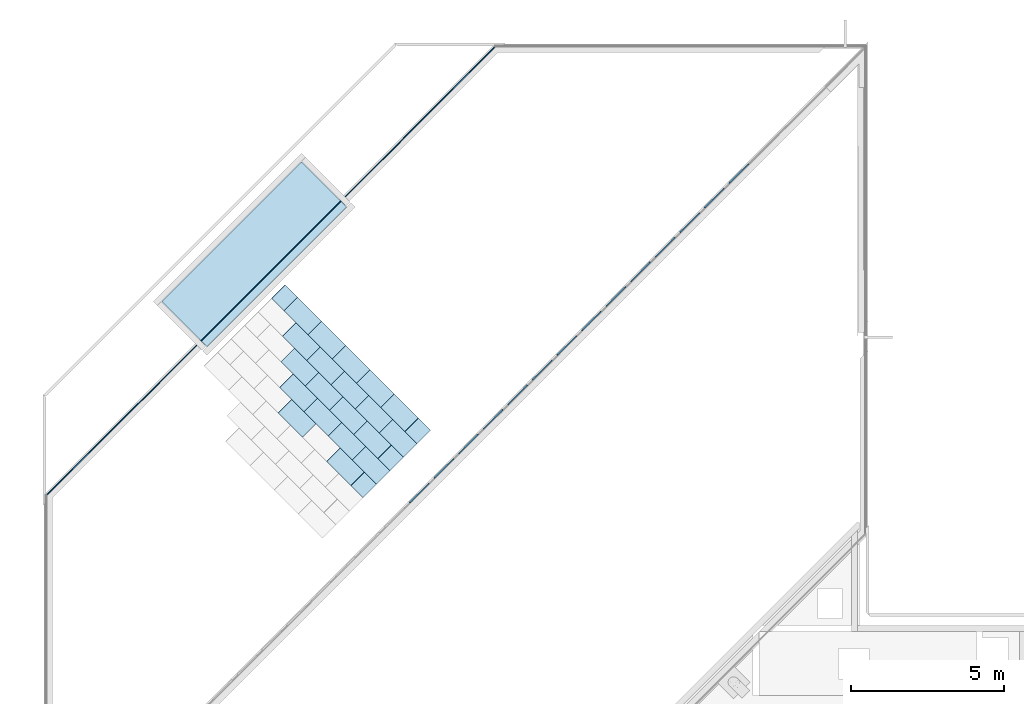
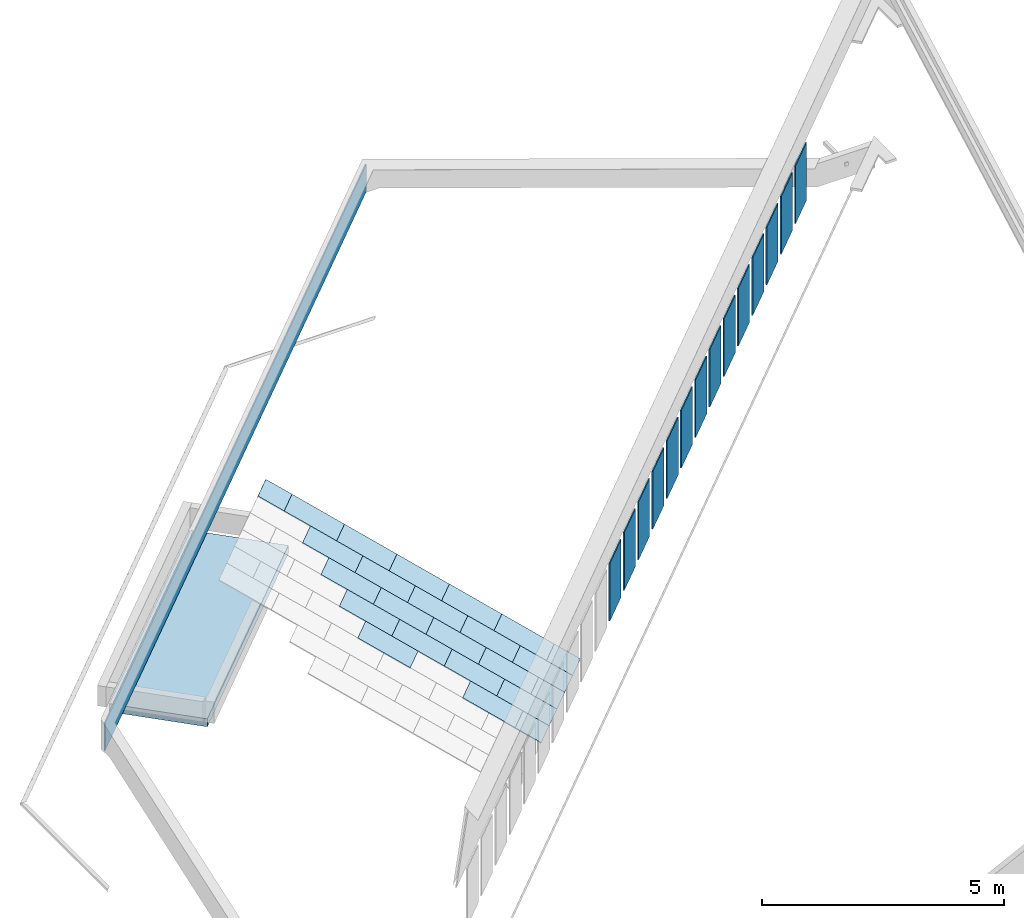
# One storey, part 2 of 8: 25 slabs, 15 plates, 24 elements without a shape of their own.
"""IFC4X3_ADD2 building model written with IfcOpenShell, lengths in millimetres."""

from ifc_helpers import new_model, si_unit, direction, frame, frame_2d, origin_with_axes, place, context, subcontext, project, spatial, polyline, rectangle, outline, extrude, source, transform, mapped, material, type_object, element, aggregate, save


model = new_model("IFC4X3_ADD2")

# Units and contexts
model_context = context("Model", 3, precision=1e-05, world=origin_with_axes(), true_north=direction((0.0, 1.0)))
body_context = subcontext(model_context, "Body", "Model", "MODEL_VIEW")
ifc_project = project(units=[si_unit("LENGTHUNIT", "METRE", prefix="MILLI"), si_unit("AREAUNIT", "SQUARE_METRE"), si_unit("VOLUMEUNIT", "CUBIC_METRE"), si_unit("PLANEANGLEUNIT", "RADIAN"), si_unit("TIMEUNIT", "SECOND"), si_unit("MASSUNIT", "GRAM")], contexts=[model_context])

# Site, building, storey
site_placement = place(None, origin_with_axes())
site = spatial("IfcSite", under=ifc_project, at=site_placement, Name="Site", CompositionType="ELEMENT")
building_placement = place(site_placement, origin_with_axes())
building = spatial("IfcBuilding", under=site, at=building_placement, Name="IFC Building Story")
storey_placement = place(building_placement, frame((0.0, 0.0, 17050.0), z_axis=(0.0, 0.0, 1.0), x_axis=(1.0, 0.0, 0.0)))
storey = spatial("IfcBuildingStorey", under=building, at=storey_placement, Name="050", Elevation=17050.0)

# Slab
ifc_material_1 = material(Name="BB_Beton_Bestaand")
slab_type = type_object("IfcSlabType", Name="BB_Beton_Bestaand 200", PredefinedType="FLOOR", material=ifc_material_1)
slab_1_placement = place(storey_placement, frame((-30719.0066786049, 35293.98755288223, -500.0), z_axis=(0.0, 0.0, 1.0), x_axis=(-0.7071067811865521, -0.707106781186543, 0.0)))
element("IfcSlab", 1, at=slab_1_placement, inside=storey, type_object=slab_type, Name="Floor:BB_XX_Vloer uit beton, 200 mm", ObjectType="Floor:BB_XX_Vloer uit beton, 200 mm", PredefinedType="FLOOR", context=body_context, shape_type="SweptSolid", body=[
    extrude(rectangle(XDim=6470.000000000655, YDim=2099.999999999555, at=frame_2d((0.0, 0.0), x_axis=(-1.0, 0.0))), frame((3235.000000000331, 1049.999999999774, 0.0), z_axis=(0.0, 0.0, 1.0), x_axis=(1.0, 0.0, 0.0)), (0.0, 0.0, 1.0), 200.0),
])

# Plates
ifc_material_2 = material(Name="BB_Glas")
shared_shape_1 = source(origin_with_axes(), body_context, "Body", "SweptSolid", [
    extrude(rectangle(XDim=1459.000000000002, YDim=889.100000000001, at=frame_2d((0.0, 0.0), x_axis=(0.0, 1.0))), frame((0.0, 0.0, -28.0), z_axis=(0.0, 0.0, 1.0), x_axis=(1.0, 0.0, 0.0)), (0.0, 0.0, 1.0), 28.0),
])
for number, where, z_axis, x_axis in (
    (2, (-26845.092895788, 24428.6968924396, 3674.5), (0.7071067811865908, -0.7071067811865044, 0.0), (-0.7071067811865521, -0.707106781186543, 0.0)),
    (3, (-26039.6275613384, 25234.1622268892, 3674.5), (0.7071067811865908, -0.7071067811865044, 0.0), (-0.7071067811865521, -0.707106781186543, 0.0)),
    (4, (-25234.1622268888, 26039.6275613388, 3674.5), (0.7071067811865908, -0.7071067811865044, 0.0), (-0.7071067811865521, -0.707106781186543, 0.0)),
    (5, (-24428.6968924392, 26845.0928957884, 3674.5), (0.7071067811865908, -0.7071067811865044, 0.0), (-0.7071067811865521, -0.707106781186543, 0.0)),
    (6, (-23623.2315579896, 27650.558230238, 3674.5), (0.7071067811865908, -0.7071067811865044, 0.0), (-0.7071067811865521, -0.707106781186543, 0.0)),
    (7, (-22817.76622354, 28456.0235646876, 3674.5), (0.7071067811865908, -0.7071067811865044, 0.0), (-0.7071067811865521, -0.707106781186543, 0.0)),
    (8, (-22012.3008890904, 29261.4888991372, 3674.5), (0.7071067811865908, -0.7071067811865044, 0.0), (-0.7071067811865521, -0.707106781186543, 0.0)),
    (9, (-21206.8355546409, 30066.9542335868, 3674.5), (0.7071067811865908, -0.7071067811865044, 0.0), (-0.7071067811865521, -0.707106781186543, 0.0)),
    (10, (-20401.3702201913, 30872.4195680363, 3674.5), (0.7071067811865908, -0.7071067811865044, 0.0), (-0.7071067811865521, -0.707106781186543, 0.0)),
    (11, (-19595.9048857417, 31677.8849024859, 3674.5), (0.7071067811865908, -0.7071067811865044, 0.0), (-0.7071067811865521, -0.707106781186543, 0.0)),
    (12, (-18790.4395512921, 32483.3502369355, 3674.5), (0.7071067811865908, -0.7071067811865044, 0.0), (-0.7071067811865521, -0.707106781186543, 0.0)),
    (13, (-17984.9742168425, 33288.8155713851, 3674.5), (0.7071067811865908, -0.7071067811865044, 0.0), (-0.7071067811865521, -0.707106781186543, 0.0)),
    (14, (-17179.5088823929, 34094.2809058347, 3674.5), (0.7071067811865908, -0.7071067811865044, 0.0), (-0.7071067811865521, -0.707106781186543, 0.0)),
    (15, (-16374.0435479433, 34899.7462402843, 3674.5), (0.7071067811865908, -0.7071067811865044, 0.0), (-0.7071067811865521, -0.707106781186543, 0.0)),
):
    element("IfcPlate", number, at=place(storey_placement, frame(where, z_axis=z_axis, x_axis=x_axis)), inside=storey, material=ifc_material_2, Name="BB_07.06_Buitenbeglazing, rechthoekig_GMO:07.06.41#01_Dubbele beglazing sheds, 28 mm", ObjectType="BB_07.06_Buitenbeglazing, rechthoekig_GMO:07.06.41#01_Dubbele beglazing sheds, 28 mm", PredefinedType="USERDEFINED", context=body_context, shape_type="MappedRepresentation", body=[
        mapped(shared_shape_1, transform((0.0, 0.0, 0.0))),
    ])
shared_shape_2 = source(origin_with_axes(), body_context, "Body", "SweptSolid", [
    extrude(outline(polyline([(10404.1885216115, -1.000000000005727), (-10404.1885216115, -0.9999999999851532), (-10402.1885216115, 1.000000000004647), (10402.1885216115, 0.9999999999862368), (10404.1885216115, -1.000000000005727)])), frame((10440.9580742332, -13.00000000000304, 0.0), z_axis=(0.0, 0.0, 1.0), x_axis=(1.0, 0.0, 0.0)), (0.0, 0.0, 1.0), 700.000000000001),
    extrude(outline(polyline([(-10412.95807423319, 0.9999999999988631), (10412.9580742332, 0.9999999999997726), (10414.9580742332, -1.000000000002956), (-10414.9580742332, -0.9999999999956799), (-10412.95807423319, 0.9999999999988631)])), frame((10440.9580742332, 13.00000000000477, 0.0), z_axis=(0.0, 0.0, 1.0), x_axis=(1.0, 0.0, 0.0)), (0.0, 0.0, 1.0), 700.000000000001),
    extrude(outline(polyline([(-10436.1296471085, -12.0000000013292), (-10412.1296471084, 11.9999999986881), (10412.1296471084, 12.0000000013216), (10436.1296471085, -11.9999999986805), (-10436.1296471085, -12.0000000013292)])), frame((10440.9580742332, 2.19824158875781e-12, 0.0), z_axis=(0.0, 0.0, 1.0), x_axis=(1.0, 0.0, 0.0)), (0.0, 0.0, 1.0), 700.000000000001),
])
plate_placement = place(storey_placement, frame((-39098.899494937, 24333.1549821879, 3703.0), z_axis=(0.0, 0.0, 1.0), x_axis=(0.7071067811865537, 0.7071067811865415, 0.0)))
element("IfcPlate", 16, at=plate_placement, inside=storey, Name="Basic Wall:BB_07.04.63#01_Aluminium sandwichpanelen, 28 mm", ObjectType="Basic Wall:BB_07.04.63#01_Aluminium sandwichpanelen, 28 mm", PredefinedType="USERDEFINED", context=body_context, shape_type="MappedRepresentation", body=[
    mapped(shared_shape_2, transform((0.0, 0.0, 0.0))),
])

# Roof, slab
roof_1_placement = place(storey_placement, frame((0.0, 0.0, -17050.0), z_axis=(0.0, 0.0, 1.0), x_axis=(1.0, 0.0, 0.0)))
roof_1 = element("IfcRoof", 17, at=roof_1_placement, inside=storey, Name="vezelcementplaat 1250 x 625:vezelcementplaat 1250 x 625", ObjectType="vezelcementplaat 1250 x 625:vezelcementplaat 1250 x 625", PredefinedType="SHED_ROOF")
slab_2_placement = place(roof_1_placement, frame((-28130.3791775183, 27246.49570102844, 17620.25574127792), z_axis=(0.3119702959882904, -0.3119702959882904, 0.8974124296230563), x_axis=(0.6345664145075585, -0.6345664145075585, -0.441192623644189)))
slab_2 = element("IfcSlab", 18, at=slab_2_placement, Name="vezelcementplaat 1250 x 625:vezelcementplaat 1250 x 625:1", ObjectType="vezelcementplaat 1250 x 625:vezelcementplaat 1250 x 625", PredefinedType="ROOF", context=body_context, shape_type="SweptSolid", body=[
    extrude(rectangle(XDim=1250.261265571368, YDim=625.0000000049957, at=frame_2d((0.0, 0.0), x_axis=(-1.0, 0.0))), frame((381.7661132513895, 312.5000000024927, 495.0181237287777), z_axis=(0.0, 0.0, 1.0), x_axis=(1.0, 0.0, 0.0)), (0.0, 0.0, 1.0), 23.84980459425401),
])
aggregate(roof_1, [slab_2])

roof_2_placement = place(storey_placement, frame((0.0, 0.0, -17050.0), z_axis=(0.0, 0.0, 1.0), x_axis=(1.0, 0.0, 0.0)))
roof_2 = element("IfcRoof", 19, at=roof_2_placement, inside=storey, Name="vezelcementplaat 1250 x 1:vezelcementplaat 1250 x 625", ObjectType="vezelcementplaat 1250 x 1:vezelcementplaat 1250 x 625", PredefinedType="SHED_ROOF")
slab_3_placement = place(roof_2_placement, frame((-28923.4214052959, 28039.53792880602, 18171.86178927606), z_axis=(0.3119702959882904, -0.3119702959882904, 0.8974124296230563), x_axis=(0.6345664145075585, -0.6345664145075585, -0.441192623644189)))
slab_3 = element("IfcSlab", 20, at=slab_3_placement, Name="vezelcementplaat 1250 x 1:vezelcementplaat 1250 x 625:1", ObjectType="vezelcementplaat 1250 x 1:vezelcementplaat 1250 x 625", PredefinedType="ROOF", context=body_context, shape_type="SweptSolid", body=[
    extrude(rectangle(XDim=1249.738734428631, YDim=625.0000000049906, at=frame_2d((0.0, 0.0), x_axis=(-1.0, 0.0))), frame((381.606558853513, 312.5000000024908, 494.8112370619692), z_axis=(0.0, 0.0, 1.0), x_axis=(1.0, 0.0, 0.0)), (0.0, 0.0, 1.0), 23.84980459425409),
])
aggregate(roof_2, [slab_3])

roof_3_placement = place(storey_placement, frame((0.0, 0.0, -17050.0), z_axis=(0.0, 0.0, 1.0), x_axis=(1.0, 0.0, 0.0)))
roof_3 = element("IfcRoof", 21, at=roof_3_placement, inside=storey, Name="vezelcementplaat 1250 x 2:vezelcementplaat 1250 x 625", ObjectType="vezelcementplaat 1250 x 2:vezelcementplaat 1250 x 625", PredefinedType="SHED_ROOF")
slab_4_placement = place(roof_3_placement, frame((-29716.6294234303, 28832.74594694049, 18723.23730038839), z_axis=(0.3119702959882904, -0.3119702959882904, 0.8974124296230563), x_axis=(0.6345664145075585, -0.6345664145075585, -0.441192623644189)))
slab_4 = element("IfcSlab", 22, at=slab_4_placement, Name="vezelcementplaat 1250 x 2:vezelcementplaat 1250 x 625:1", ObjectType="vezelcementplaat 1250 x 2:vezelcementplaat 1250 x 625", PredefinedType="ROOF", context=body_context, shape_type="SweptSolid", body=[
    extrude(rectangle(XDim=1250.000000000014, YDim=625.0000000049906, at=frame_2d((0.0, 0.0), x_axis=(-1.0, 0.0))), frame((381.6863360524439, 312.5000000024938, 494.9146803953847), z_axis=(0.0, 0.0, 1.0), x_axis=(1.0, 0.0, 0.0)), (0.0, 0.0, 1.0), 23.84980459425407),
])
aggregate(roof_3, [slab_4])

roof_4_placement = place(storey_placement, frame((0.0, 0.0, -17050.0), z_axis=(0.0, 0.0, 1.0), x_axis=(1.0, 0.0, 0.0)))
roof_4 = element("IfcRoof", 23, at=roof_4_placement, inside=storey, Name="vezelcementplaat 1250 x 3:vezelcementplaat 1250 x 625", ObjectType="vezelcementplaat 1250 x 3:vezelcementplaat 1250 x 625", PredefinedType="SHED_ROOF")
slab_5_placement = place(roof_4_placement, frame((-30509.83744156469, 29625.95396507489, 19274.72807994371), z_axis=(0.3119702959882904, -0.3119702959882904, 0.8974124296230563), x_axis=(0.6345664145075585, -0.6345664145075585, -0.441192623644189)))
slab_5 = element("IfcSlab", 24, at=slab_5_placement, Name="vezelcementplaat 1250 x 3:vezelcementplaat 1250 x 625:1", ObjectType="vezelcementplaat 1250 x 3:vezelcementplaat 1250 x 625", PredefinedType="ROOF", context=body_context, shape_type="SweptSolid", body=[
    extrude(rectangle(XDim=1250.000000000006, YDim=625.0000000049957, at=frame_2d((0.0, 0.0), x_axis=(-1.0, 0.0))), frame((381.6863360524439, 312.5000000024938, 494.9146803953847), z_axis=(0.0, 0.0, 1.0), x_axis=(1.0, 0.0, 0.0)), (0.0, 0.0, 1.0), 23.84980459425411),
])
aggregate(roof_4, [slab_5])

roof_5_placement = place(storey_placement, frame((0.0, 0.0, -17050.0), z_axis=(0.0, 0.0, 1.0), x_axis=(1.0, 0.0, 0.0)))
roof_5 = element("IfcRoof", 25, at=roof_5_placement, inside=storey, Name="vezelcementplaat 1250 x 4:vezelcementplaat 1250 x 625", ObjectType="vezelcementplaat 1250 x 4:vezelcementplaat 1250 x 625", PredefinedType="SHED_ROOF")
slab_6_placement = place(roof_5_placement, frame((-31303.0454596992, 30419.16198320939, 19826.21885949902), z_axis=(0.3119702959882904, -0.3119702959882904, 0.8974124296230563), x_axis=(0.6345664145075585, -0.6345664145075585, -0.441192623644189)))
slab_6 = element("IfcSlab", 26, at=slab_6_placement, Name="vezelcementplaat 1250 x 4:vezelcementplaat 1250 x 625:1", ObjectType="vezelcementplaat 1250 x 4:vezelcementplaat 1250 x 625", PredefinedType="ROOF", context=body_context, shape_type="SweptSolid", body=[
    extrude(rectangle(XDim=1250.000000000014, YDim=625.000000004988, at=frame_2d((0.0, 0.0), x_axis=(-1.0, 0.0))), frame((381.6863360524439, 312.5000000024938, 494.9146803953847), z_axis=(0.0, 0.0, 1.0), x_axis=(1.0, 0.0, 0.0)), (0.0, 0.0, 1.0), 23.84980459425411),
])
aggregate(roof_5, [slab_6])

roof_6_placement = place(storey_placement, frame((0.0, 0.0, -17050.0), z_axis=(0.0, 0.0, 1.0), x_axis=(1.0, 0.0, 0.0)))
roof_6 = element("IfcRoof", 27, at=roof_6_placement, inside=storey, Name="vezelcementplaat 1250 x 5:vezelcementplaat 1250 x 625", ObjectType="vezelcementplaat 1250 x 5:vezelcementplaat 1250 x 625", PredefinedType="SHED_ROOF")
slab_7_placement = place(roof_6_placement, frame((-31257.70773052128, 31257.70773052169, 20377.70963905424), z_axis=(0.3119702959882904, -0.3119702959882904, 0.8974124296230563), x_axis=(-0.7071067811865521, -0.707106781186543, 0.0)))
slab_7 = element("IfcSlab", 28, at=slab_7_placement, Name="vezelcementplaat 1250 x 5:vezelcementplaat 1250 x 625:1", ObjectType="vezelcementplaat 1250 x 5:vezelcementplaat 1250 x 625", PredefinedType="ROOF", context=body_context, shape_type="SweptSolid", body=[
    extrude(rectangle(XDim=625.0000000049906, YDim=625.0000000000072, at=frame_2d((0.0, 0.0), x_axis=(-1.0, 0.0))), frame((312.500000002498, 190.8431680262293, 247.4573401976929), z_axis=(0.0, 0.0, 1.0), x_axis=(1.0, 0.0, 0.0)), (0.0, 0.0, 1.0), 23.84980459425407),
])
aggregate(roof_6, [slab_7])

roof_7_placement = place(storey_placement, frame((0.0, 0.0, -17050.0), z_axis=(0.0, 0.0, 1.0), x_axis=(1.0, 0.0, 0.0)))
roof_7 = element("IfcRoof", 29, at=roof_7_placement, inside=storey, Name="vezelcementplaat 1250 x 6:vezelcementplaat 1250 x 625", ObjectType="vezelcementplaat 1250 x 6:vezelcementplaat 1250 x 625", PredefinedType="SHED_ROOF")
slab_8_placement = place(roof_7_placement, frame((-26895.22942113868, 26895.22942113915, 17344.51035150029), z_axis=(0.3119702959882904, -0.3119702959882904, 0.8974124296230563), x_axis=(-0.7071067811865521, -0.707106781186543, 0.0)))
slab_8 = element("IfcSlab", 30, at=slab_8_placement, Name="vezelcementplaat 1250 x 6:vezelcementplaat 1250 x 625:1", ObjectType="vezelcementplaat 1250 x 6:vezelcementplaat 1250 x 625", PredefinedType="ROOF", context=body_context, shape_type="SweptSolid", body=[
    extrude(rectangle(XDim=625.2612655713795, YDim=625.0000000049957, at=frame_2d((0.0, 0.0), x_axis=(0.0, -1.0))), frame((312.5000000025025, 190.9229452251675, 247.560783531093), z_axis=(0.0, 0.0, 1.0), x_axis=(1.0, 0.0, 0.0)), (0.0, 0.0, 1.0), 23.84980459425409),
])
aggregate(roof_7, [slab_8])

roof_8_placement = place(storey_placement, frame((0.0, 0.0, -17050.0), z_axis=(0.0, 0.0, 1.0), x_axis=(1.0, 0.0, 0.0)))
roof_8 = element("IfcRoof", 31, at=roof_8_placement, inside=storey, Name="vezelcementplaat 1250 x 7:vezelcementplaat 1250 x 625", ObjectType="vezelcementplaat 1250 x 7:vezelcementplaat 1250 x 625", PredefinedType="SHED_ROOF")
slab_9_placement = place(roof_8_placement, frame((-28969.090715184, 27201.32376221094, 17896.11639949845), z_axis=(0.3119702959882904, -0.3119702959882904, 0.8974124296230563), x_axis=(0.6345664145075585, -0.6345664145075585, -0.441192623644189)))
slab_9 = element("IfcSlab", 32, at=slab_9_placement, Name="vezelcementplaat 1250 x 7:vezelcementplaat 1250 x 625:1", ObjectType="vezelcementplaat 1250 x 7:vezelcementplaat 1250 x 625", PredefinedType="ROOF", context=body_context, shape_type="SweptSolid", body=[
    extrude(rectangle(XDim=1250.261265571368, YDim=625.0000000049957, at=frame_2d((0.0, 0.0), x_axis=(-1.0, 0.0))), frame((381.7661132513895, 312.5000000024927, 495.0181237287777), z_axis=(0.0, 0.0, 1.0), x_axis=(1.0, 0.0, 0.0)), (0.0, 0.0, 1.0), 23.84980459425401),
])
aggregate(roof_8, [slab_9])

roof_9_placement = place(storey_placement, frame((0.0, 0.0, -17050.0), z_axis=(0.0, 0.0, 1.0), x_axis=(1.0, 0.0, 0.0)))
roof_9 = element("IfcRoof", 33, at=roof_9_placement, inside=storey, Name="vezelcementplaat 1250 x 8:vezelcementplaat 1250 x 625", ObjectType="vezelcementplaat 1250 x 8:vezelcementplaat 1250 x 625", PredefinedType="SHED_ROOF")
slab_10_placement = place(roof_9_placement, frame((-29762.1329429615, 27994.36598998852, 18447.72244749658), z_axis=(0.3119702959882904, -0.3119702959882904, 0.8974124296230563), x_axis=(0.6345664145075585, -0.6345664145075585, -0.441192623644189)))
slab_10 = element("IfcSlab", 34, at=slab_10_placement, Name="vezelcementplaat 1250 x 8:vezelcementplaat 1250 x 625:1", ObjectType="vezelcementplaat 1250 x 8:vezelcementplaat 1250 x 625", PredefinedType="ROOF", context=body_context, shape_type="SweptSolid", body=[
    extrude(rectangle(XDim=1249.738734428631, YDim=625.0000000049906, at=frame_2d((0.0, 0.0), x_axis=(-1.0, 0.0))), frame((381.606558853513, 312.5000000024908, 494.8112370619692), z_axis=(0.0, 0.0, 1.0), x_axis=(1.0, 0.0, 0.0)), (0.0, 0.0, 1.0), 23.84980459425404),
])
aggregate(roof_9, [slab_10])

roof_10_placement = place(storey_placement, frame((0.0, 0.0, -17050.0), z_axis=(0.0, 0.0, 1.0), x_axis=(1.0, 0.0, 0.0)))
roof_10 = element("IfcRoof", 35, at=roof_10_placement, inside=storey, Name="vezelcementplaat 1250 x 9:vezelcementplaat 1250 x 625", ObjectType="vezelcementplaat 1250 x 9:vezelcementplaat 1250 x 625", PredefinedType="SHED_ROOF")
slab_11_placement = place(roof_10_placement, frame((-30555.340961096, 28787.57400812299, 18999.09795860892), z_axis=(0.3119702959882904, -0.3119702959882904, 0.8974124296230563), x_axis=(0.6345664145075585, -0.6345664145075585, -0.441192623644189)))
slab_11 = element("IfcSlab", 36, at=slab_11_placement, Name="vezelcementplaat 1250 x 9:vezelcementplaat 1250 x 625:1", ObjectType="vezelcementplaat 1250 x 9:vezelcementplaat 1250 x 625", PredefinedType="ROOF", context=body_context, shape_type="SweptSolid", body=[
    extrude(rectangle(XDim=1250.000000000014, YDim=625.0000000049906, at=frame_2d((0.0, 0.0), x_axis=(-1.0, 0.0))), frame((381.6863360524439, 312.5000000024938, 494.9146803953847), z_axis=(0.0, 0.0, 1.0), x_axis=(1.0, 0.0, 0.0)), (0.0, 0.0, 1.0), 23.84980459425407),
])
aggregate(roof_10, [slab_11])

roof_11_placement = place(storey_placement, frame((0.0, 0.0, -17050.0), z_axis=(0.0, 0.0, 1.0), x_axis=(1.0, 0.0, 0.0)))
roof_11 = element("IfcRoof", 37, at=roof_11_placement, inside=storey, Name="vezelcementplaat 1250 x 10:vezelcementplaat 1250 x 625", ObjectType="vezelcementplaat 1250 x 10:vezelcementplaat 1250 x 625", PredefinedType="SHED_ROOF")
slab_12_placement = place(roof_11_placement, frame((-31348.54897923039, 29580.78202625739, 19550.58873816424), z_axis=(0.3119702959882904, -0.3119702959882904, 0.8974124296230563), x_axis=(0.6345664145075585, -0.6345664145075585, -0.441192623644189)))
slab_12 = element("IfcSlab", 38, at=slab_12_placement, Name="vezelcementplaat 1250 x 10:vezelcementplaat 1250 x 625:1", ObjectType="vezelcementplaat 1250 x 10:vezelcementplaat 1250 x 625", PredefinedType="ROOF", context=body_context, shape_type="SweptSolid", body=[
    extrude(rectangle(XDim=1250.000000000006, YDim=625.0000000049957, at=frame_2d((0.0, 0.0), x_axis=(-1.0, 0.0))), frame((381.6863360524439, 312.5000000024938, 494.9146803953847), z_axis=(0.0, 0.0, 1.0), x_axis=(1.0, 0.0, 0.0)), (0.0, 0.0, 1.0), 23.84980459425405),
])
aggregate(roof_11, [slab_12])

roof_12_placement = place(storey_placement, frame((0.0, 0.0, -17050.0), z_axis=(0.0, 0.0, 1.0), x_axis=(1.0, 0.0, 0.0)))
roof_12 = element("IfcRoof", 39, at=roof_12_placement, inside=storey, Name="vezelcementplaat 1250 x 12:vezelcementplaat 1250 x 625", ObjectType="vezelcementplaat 1250 x 12:vezelcementplaat 1250 x 625", PredefinedType="SHED_ROOF")
slab_13_placement = place(roof_12_placement, frame((-28175.8826970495, 26408.11574407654, 17344.62561994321), z_axis=(0.3119702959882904, -0.3119702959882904, 0.8974124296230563), x_axis=(0.6345664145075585, -0.6345664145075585, -0.441192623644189)))
slab_13 = element("IfcSlab", 40, at=slab_13_placement, Name="vezelcementplaat 1250 x 12:vezelcementplaat 1250 x 625:1", ObjectType="vezelcementplaat 1250 x 12:vezelcementplaat 1250 x 625", PredefinedType="ROOF", context=body_context, shape_type="SweptSolid", body=[
    extrude(rectangle(XDim=1250.261265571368, YDim=625.0000000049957, at=frame_2d((0.0, 0.0), x_axis=(-1.0, 0.0))), frame((381.7661132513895, 312.5000000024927, 495.0181237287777), z_axis=(0.0, 0.0, 1.0), x_axis=(1.0, 0.0, 0.0)), (0.0, 0.0, 1.0), 23.84980459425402),
])
aggregate(roof_12, [slab_13])

roof_13_placement = place(storey_placement, frame((0.0, 0.0, -17050.0), z_axis=(0.0, 0.0, 1.0), x_axis=(1.0, 0.0, 0.0)))
roof_13 = element("IfcRoof", 41, at=roof_13_placement, inside=storey, Name="vezelcementplaat 1250 x 13:vezelcementplaat 1250 x 625", ObjectType="vezelcementplaat 1250 x 13:vezelcementplaat 1250 x 625", PredefinedType="SHED_ROOF")
slab_14_placement = place(roof_13_placement, frame((-29014.2626540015, 26362.61222454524, 17620.25574127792), z_axis=(0.3119702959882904, -0.3119702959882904, 0.8974124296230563), x_axis=(0.6345664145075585, -0.6345664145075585, -0.441192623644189)))
slab_14 = element("IfcSlab", 42, at=slab_14_placement, Name="vezelcementplaat 1250 x 13:vezelcementplaat 1250 x 625:1", ObjectType="vezelcementplaat 1250 x 13:vezelcementplaat 1250 x 625", PredefinedType="ROOF", context=body_context, shape_type="SweptSolid", body=[
    extrude(rectangle(XDim=1250.261265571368, YDim=625.0000000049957, at=frame_2d((0.0, 0.0), x_axis=(-1.0, 0.0))), frame((381.7661132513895, 312.5000000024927, 495.0181237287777), z_axis=(0.0, 0.0, 1.0), x_axis=(1.0, 0.0, 0.0)), (0.0, 0.0, 1.0), 23.84980459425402),
])
aggregate(roof_13, [slab_14])

roof_14_placement = place(storey_placement, frame((0.0, 0.0, -17050.0), z_axis=(0.0, 0.0, 1.0), x_axis=(1.0, 0.0, 0.0)))
roof_14 = element("IfcRoof", 43, at=roof_14_placement, inside=storey, Name="vezelcementplaat 1250 x 14:vezelcementplaat 1250 x 625", ObjectType="vezelcementplaat 1250 x 14:vezelcementplaat 1250 x 625", PredefinedType="SHED_ROOF")
slab_15_placement = place(roof_14_placement, frame((-29807.3048817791, 27155.65445232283, 18171.86178927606), z_axis=(0.3119702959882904, -0.3119702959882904, 0.8974124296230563), x_axis=(0.6345664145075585, -0.6345664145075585, -0.441192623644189)))
slab_15 = element("IfcSlab", 44, at=slab_15_placement, Name="vezelcementplaat 1250 x 14:vezelcementplaat 1250 x 625:1", ObjectType="vezelcementplaat 1250 x 14:vezelcementplaat 1250 x 625", PredefinedType="ROOF", context=body_context, shape_type="SweptSolid", body=[
    extrude(rectangle(XDim=1249.738734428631, YDim=625.0000000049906, at=frame_2d((0.0, 0.0), x_axis=(-1.0, 0.0))), frame((381.606558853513, 312.5000000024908, 494.8112370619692), z_axis=(0.0, 0.0, 1.0), x_axis=(1.0, 0.0, 0.0)), (0.0, 0.0, 1.0), 23.84980459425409),
])
aggregate(roof_14, [slab_15])

roof_15_placement = place(storey_placement, frame((0.0, 0.0, -17050.0), z_axis=(0.0, 0.0, 1.0), x_axis=(1.0, 0.0, 0.0)))
roof_15 = element("IfcRoof", 45, at=roof_15_placement, inside=storey, Name="vezelcementplaat 1250 x 15:vezelcementplaat 1250 x 625", ObjectType="vezelcementplaat 1250 x 15:vezelcementplaat 1250 x 625", PredefinedType="SHED_ROOF")
slab_16_placement = place(roof_15_placement, frame((-30600.5128999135, 27948.86247045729, 18723.23730038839), z_axis=(0.3119702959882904, -0.3119702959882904, 0.8974124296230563), x_axis=(0.6345664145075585, -0.6345664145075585, -0.441192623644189)))
slab_16 = element("IfcSlab", 46, at=slab_16_placement, Name="vezelcementplaat 1250 x 15:vezelcementplaat 1250 x 625:1", ObjectType="vezelcementplaat 1250 x 15:vezelcementplaat 1250 x 625", PredefinedType="ROOF", context=body_context, shape_type="SweptSolid", body=[
    extrude(rectangle(XDim=1250.000000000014, YDim=625.0000000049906, at=frame_2d((0.0, 0.0), x_axis=(-1.0, 0.0))), frame((381.6863360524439, 312.5000000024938, 494.9146803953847), z_axis=(0.0, 0.0, 1.0), x_axis=(1.0, 0.0, 0.0)), (0.0, 0.0, 1.0), 23.84980459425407),
])
aggregate(roof_15, [slab_16])

roof_16_placement = place(storey_placement, frame((0.0, 0.0, -17050.0), z_axis=(0.0, 0.0, 1.0), x_axis=(1.0, 0.0, 0.0)))
roof_16 = element("IfcRoof", 47, at=roof_16_placement, inside=storey, Name="vezelcementplaat 1250 x 16:vezelcementplaat 1250 x 625", ObjectType="vezelcementplaat 1250 x 16:vezelcementplaat 1250 x 625", PredefinedType="SHED_ROOF")
slab_17_placement = place(roof_16_placement, frame((-31393.7209180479, 28742.07048859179, 19274.72807994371), z_axis=(0.3119702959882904, -0.3119702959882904, 0.8974124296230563), x_axis=(0.6345664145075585, -0.6345664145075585, -0.441192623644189)))
slab_17 = element("IfcSlab", 48, at=slab_17_placement, Name="vezelcementplaat 1250 x 16:vezelcementplaat 1250 x 625:1", ObjectType="vezelcementplaat 1250 x 16:vezelcementplaat 1250 x 625", PredefinedType="ROOF", context=body_context, shape_type="SweptSolid", body=[
    extrude(rectangle(XDim=1250.000000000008, YDim=625.0000000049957, at=frame_2d((0.0, 0.0), x_axis=(-1.0, 0.0))), frame((381.6863360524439, 312.5000000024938, 494.9146803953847), z_axis=(0.0, 0.0, 1.0), x_axis=(1.0, 0.0, 0.0)), (0.0, 0.0, 1.0), 23.84980459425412),
])
aggregate(roof_16, [slab_17])

roof_17_placement = place(storey_placement, frame((0.0, 0.0, -17050.0), z_axis=(0.0, 0.0, 1.0), x_axis=(1.0, 0.0, 0.0)))
roof_17 = element("IfcRoof", 49, at=roof_17_placement, inside=storey, Name="vezelcementplaat 1250 x 19:vezelcementplaat 1250 x 625", ObjectType="vezelcementplaat 1250 x 19:vezelcementplaat 1250 x 625", PredefinedType="SHED_ROOF")
slab_18_placement = place(roof_17_placement, frame((-27779.11289762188, 26011.34594465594, 17344.51035150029), z_axis=(0.3119702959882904, -0.3119702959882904, 0.8974124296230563), x_axis=(-0.7071067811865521, -0.707106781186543, 0.0)))
slab_18 = element("IfcSlab", 50, at=slab_18_placement, Name="vezelcementplaat 1250 x 19:vezelcementplaat 1250 x 625:1", ObjectType="vezelcementplaat 1250 x 19:vezelcementplaat 1250 x 625", PredefinedType="ROOF", context=body_context, shape_type="SweptSolid", body=[
    extrude(rectangle(XDim=625.2612655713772, YDim=625.0000000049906, at=frame_2d((0.0, 0.0), x_axis=(0.0, -1.0))), frame((312.5000000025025, 190.9229452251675, 247.560783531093), z_axis=(0.0, 0.0, 1.0), x_axis=(1.0, 0.0, 0.0)), (0.0, 0.0, 1.0), 23.84980459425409),
])
aggregate(roof_17, [slab_18])

roof_18_placement = place(storey_placement, frame((0.0, 0.0, -17050.0), z_axis=(0.0, 0.0, 1.0), x_axis=(1.0, 0.0, 0.0)))
roof_18 = element("IfcRoof", 51, at=roof_18_placement, inside=storey, Name="vezelcementplaat 1250 x 20:vezelcementplaat 1250 x 625", ObjectType="vezelcementplaat 1250 x 20:vezelcementplaat 1250 x 625", PredefinedType="SHED_ROOF")
slab_19_placement = place(roof_18_placement, frame((-29852.9741916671, 26317.44028572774, 17896.11639949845), z_axis=(0.3119702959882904, -0.3119702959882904, 0.8974124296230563), x_axis=(0.6345664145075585, -0.6345664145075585, -0.441192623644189)))
slab_19 = element("IfcSlab", 52, at=slab_19_placement, Name="vezelcementplaat 1250 x 20:vezelcementplaat 1250 x 625:1", ObjectType="vezelcementplaat 1250 x 20:vezelcementplaat 1250 x 625", PredefinedType="ROOF", context=body_context, shape_type="SweptSolid", body=[
    extrude(rectangle(XDim=1250.261265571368, YDim=625.0000000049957, at=frame_2d((0.0, 0.0), x_axis=(-1.0, 0.0))), frame((381.7661132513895, 312.5000000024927, 495.0181237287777), z_axis=(0.0, 0.0, 1.0), x_axis=(1.0, 0.0, 0.0)), (0.0, 0.0, 1.0), 23.84980459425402),
])
aggregate(roof_18, [slab_19])

roof_19_placement = place(storey_placement, frame((0.0, 0.0, -17050.0), z_axis=(0.0, 0.0, 1.0), x_axis=(1.0, 0.0, 0.0)))
roof_19 = element("IfcRoof", 53, at=roof_19_placement, inside=storey, Name="vezelcementplaat 1250 x 21:vezelcementplaat 1250 x 625", ObjectType="vezelcementplaat 1250 x 21:vezelcementplaat 1250 x 625", PredefinedType="SHED_ROOF")
slab_20_placement = place(roof_19_placement, frame((-30646.0164194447, 27110.48251350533, 18447.72244749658), z_axis=(0.3119702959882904, -0.3119702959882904, 0.8974124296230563), x_axis=(0.6345664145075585, -0.6345664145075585, -0.441192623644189)))
slab_20 = element("IfcSlab", 54, at=slab_20_placement, Name="vezelcementplaat 1250 x 21:vezelcementplaat 1250 x 625:1", ObjectType="vezelcementplaat 1250 x 21:vezelcementplaat 1250 x 625", PredefinedType="ROOF", context=body_context, shape_type="SweptSolid", body=[
    extrude(rectangle(XDim=1249.738734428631, YDim=625.0000000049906, at=frame_2d((0.0, 0.0), x_axis=(-1.0, 0.0))), frame((381.606558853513, 312.5000000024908, 494.8112370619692), z_axis=(0.0, 0.0, 1.0), x_axis=(1.0, 0.0, 0.0)), (0.0, 0.0, 1.0), 23.84980459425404),
])
aggregate(roof_19, [slab_20])

roof_20_placement = place(storey_placement, frame((0.0, 0.0, -17050.0), z_axis=(0.0, 0.0, 1.0), x_axis=(1.0, 0.0, 0.0)))
roof_20 = element("IfcRoof", 55, at=roof_20_placement, inside=storey, Name="vezelcementplaat 1250 x 22:vezelcementplaat 1250 x 625", ObjectType="vezelcementplaat 1250 x 22:vezelcementplaat 1250 x 625", PredefinedType="SHED_ROOF")
slab_21_placement = place(roof_20_placement, frame((-31439.2244375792, 27903.69053163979, 18999.09795860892), z_axis=(0.3119702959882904, -0.3119702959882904, 0.8974124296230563), x_axis=(0.6345664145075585, -0.6345664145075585, -0.441192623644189)))
slab_21 = element("IfcSlab", 56, at=slab_21_placement, Name="vezelcementplaat 1250 x 22:vezelcementplaat 1250 x 625:1", ObjectType="vezelcementplaat 1250 x 22:vezelcementplaat 1250 x 625", PredefinedType="ROOF", context=body_context, shape_type="SweptSolid", body=[
    extrude(rectangle(XDim=1250.000000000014, YDim=625.0000000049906, at=frame_2d((0.0, 0.0), x_axis=(-1.0, 0.0))), frame((381.6863360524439, 312.5000000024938, 494.9146803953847), z_axis=(0.0, 0.0, 1.0), x_axis=(1.0, 0.0, 0.0)), (0.0, 0.0, 1.0), 23.84980459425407),
])
aggregate(roof_20, [slab_21])

roof_21_placement = place(storey_placement, frame((0.0, 0.0, -17050.0), z_axis=(0.0, 0.0, 1.0), x_axis=(1.0, 0.0, 0.0)))
roof_21 = element("IfcRoof", 57, at=roof_21_placement, inside=storey, Name="vezelcementplaat 1250 x 25:vezelcementplaat 1250 x 625", ObjectType="vezelcementplaat 1250 x 25:vezelcementplaat 1250 x 625", PredefinedType="SHED_ROOF")
slab_22_placement = place(roof_21_placement, frame((-29059.7661735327, 25524.23226759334, 17344.62561994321), z_axis=(0.3119702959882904, -0.3119702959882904, 0.8974124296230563), x_axis=(0.6345664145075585, -0.6345664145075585, -0.441192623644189)))
slab_22 = element("IfcSlab", 58, at=slab_22_placement, Name="vezelcementplaat 1250 x 25:vezelcementplaat 1250 x 625:1", ObjectType="vezelcementplaat 1250 x 25:vezelcementplaat 1250 x 625", PredefinedType="ROOF", context=body_context, shape_type="SweptSolid", body=[
    extrude(rectangle(XDim=1250.261265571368, YDim=625.0000000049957, at=frame_2d((0.0, 0.0), x_axis=(-1.0, 0.0))), frame((381.7661132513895, 312.5000000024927, 495.0181237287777), z_axis=(0.0, 0.0, 1.0), x_axis=(1.0, 0.0, 0.0)), (0.0, 0.0, 1.0), 23.84980459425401),
])
aggregate(roof_21, [slab_22])

roof_22_placement = place(storey_placement, frame((0.0, 0.0, -17050.0), z_axis=(0.0, 0.0, 1.0), x_axis=(1.0, 0.0, 0.0)))
roof_22 = element("IfcRoof", 59, at=roof_22_placement, inside=storey, Name="vezelcementplaat 1250 x 26:vezelcementplaat 1250 x 625", ObjectType="vezelcementplaat 1250 x 26:vezelcementplaat 1250 x 625", PredefinedType="SHED_ROOF")
slab_23_placement = place(roof_22_placement, frame((-29898.1461304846, 25478.72874806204, 17620.25574127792), z_axis=(0.3119702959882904, -0.3119702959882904, 0.8974124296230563), x_axis=(0.6345664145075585, -0.6345664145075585, -0.441192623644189)))
slab_23 = element("IfcSlab", 60, at=slab_23_placement, Name="vezelcementplaat 1250 x 26:vezelcementplaat 1250 x 625:1", ObjectType="vezelcementplaat 1250 x 26:vezelcementplaat 1250 x 625", PredefinedType="ROOF", context=body_context, shape_type="SweptSolid", body=[
    extrude(rectangle(XDim=1250.261265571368, YDim=625.0000000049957, at=frame_2d((0.0, 0.0), x_axis=(-1.0, 0.0))), frame((381.7661132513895, 312.5000000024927, 495.0181237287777), z_axis=(0.0, 0.0, 1.0), x_axis=(1.0, 0.0, 0.0)), (0.0, 0.0, 1.0), 23.84980459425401),
])
aggregate(roof_22, [slab_23])

roof_23_placement = place(storey_placement, frame((0.0, 0.0, -17050.0), z_axis=(0.0, 0.0, 1.0), x_axis=(1.0, 0.0, 0.0)))
roof_23 = element("IfcRoof", 61, at=roof_23_placement, inside=storey, Name="vezelcementplaat 1250 x 28:vezelcementplaat 1250 x 625", ObjectType="vezelcementplaat 1250 x 28:vezelcementplaat 1250 x 625", PredefinedType="SHED_ROOF")
slab_24_placement = place(roof_23_placement, frame((-31484.3963763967, 27064.97899397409, 18723.23730038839), z_axis=(0.3119702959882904, -0.3119702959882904, 0.8974124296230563), x_axis=(0.6345664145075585, -0.6345664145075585, -0.441192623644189)))
slab_24 = element("IfcSlab", 62, at=slab_24_placement, Name="vezelcementplaat 1250 x 28:vezelcementplaat 1250 x 625:1", ObjectType="vezelcementplaat 1250 x 28:vezelcementplaat 1250 x 625", PredefinedType="ROOF", context=body_context, shape_type="SweptSolid", body=[
    extrude(rectangle(XDim=1250.000000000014, YDim=625.0000000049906, at=frame_2d((0.0, 0.0), x_axis=(-1.0, 0.0))), frame((381.6863360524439, 312.5000000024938, 494.9146803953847), z_axis=(0.0, 0.0, 1.0), x_axis=(1.0, 0.0, 0.0)), (0.0, 0.0, 1.0), 23.84980459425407),
])
aggregate(roof_23, [slab_24])

roof_24_placement = place(storey_placement, frame((0.0, 0.0, -17050.0), z_axis=(0.0, 0.0, 1.0), x_axis=(1.0, 0.0, 0.0)))
roof_24 = element("IfcRoof", 63, at=roof_24_placement, inside=storey, Name="vezelcementplaat 1250 x 32:vezelcementplaat 1250 x 625", ObjectType="vezelcementplaat 1250 x 32:vezelcementplaat 1250 x 625", PredefinedType="SHED_ROOF")
slab_25_placement = place(roof_24_placement, frame((-28662.99637410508, 25127.46246817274, 17344.5103515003), z_axis=(0.3119702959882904, -0.3119702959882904, 0.8974124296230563), x_axis=(-0.7071067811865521, -0.707106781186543, 0.0)))
slab_25 = element("IfcSlab", 64, at=slab_25_placement, Name="vezelcementplaat 1250 x 32:vezelcementplaat 1250 x 625:1", ObjectType="vezelcementplaat 1250 x 32:vezelcementplaat 1250 x 625", PredefinedType="ROOF", context=body_context, shape_type="SweptSolid", body=[
    extrude(rectangle(XDim=625.2612655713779, YDim=625.0000000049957, at=frame_2d((0.0, 0.0), x_axis=(0.0, -1.0))), frame((312.5000000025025, 190.9229452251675, 247.560783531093), z_axis=(0.0, 0.0, 1.0), x_axis=(1.0, 0.0, 0.0)), (0.0, 0.0, 1.0), 23.84980459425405),
])
aggregate(roof_24, [slab_25])

save(model, "model.ifc")
